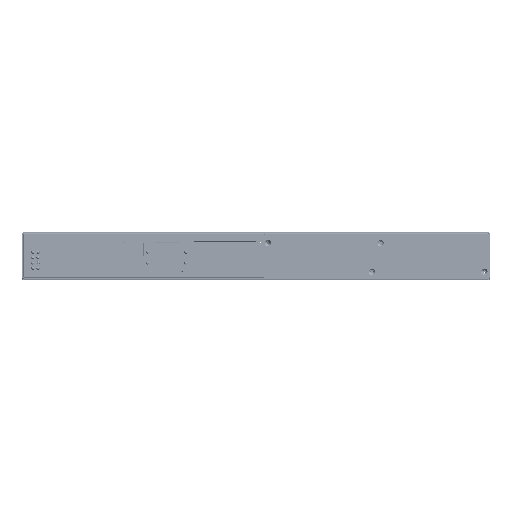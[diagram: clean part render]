
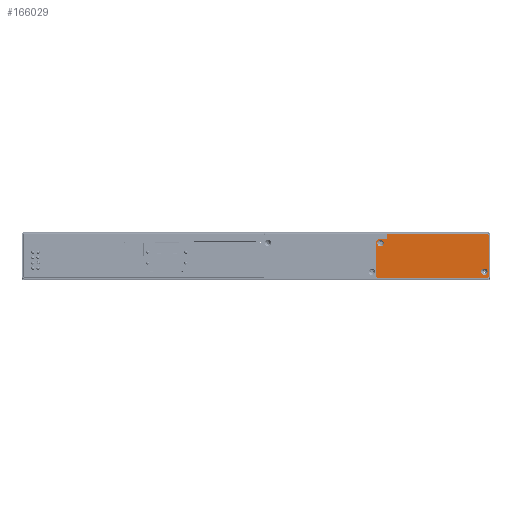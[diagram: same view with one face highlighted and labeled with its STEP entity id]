
A CAD part, top view. The second image highlights one B-rep face of the part: STEP entity #166029.
In plain terms, the highlighted planar face has unit normal (0, 0, 1).
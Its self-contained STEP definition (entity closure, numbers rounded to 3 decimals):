
#165666=DIRECTION('',(0.,1.,0.));
#165667=VECTOR('',#165666,37.8);
#165668=CARTESIAN_POINT('',(218.8,2.,138.8));
#165669=LINE('',#165668,#165667);
#165670=CARTESIAN_POINT('',(216.8,2.,138.8));
#165671=DIRECTION('',(0.,0.,1.));
#165672=DIRECTION('',(0.,-1.,0.));
#165673=AXIS2_PLACEMENT_3D('',#165670,#165671,#165672);
#165675=DIRECTION('',(1.,0.,0.));
#165676=VECTOR('',#165675,101.6);
#165677=CARTESIAN_POINT('',(115.2,0.,138.8));
#165678=LINE('',#165677,#165676);
#165679=CARTESIAN_POINT('',(115.2,2.,138.8));
#165680=DIRECTION('',(0.,0.,1.));
#165681=DIRECTION('',(-1.,0.,0.));
#165682=AXIS2_PLACEMENT_3D('',#165679,#165680,#165681);
#165684=DIRECTION('',(0.,-1.,0.));
#165685=VECTOR('',#165684,32.3);
#165686=CARTESIAN_POINT('',(113.2,34.3,138.8));
#165687=LINE('',#165686,#165685);
#165688=CARTESIAN_POINT('',(115.2,34.3,138.8));
#165689=DIRECTION('',(0.,0.,1.));
#165690=DIRECTION('',(0.,1.,0.));
#165691=AXIS2_PLACEMENT_3D('',#165688,#165689,#165690);
#165693=DIRECTION('',(-1.,0.,0.));
#165694=VECTOR('',#165693,8.);
#165695=CARTESIAN_POINT('',(123.2,36.3,138.8));
#165696=LINE('',#165695,#165694);
#165697=DIRECTION('',(0.,-1.,0.));
#165698=VECTOR('',#165697,3.5);
#165699=CARTESIAN_POINT('',(123.2,39.8,138.8));
#165700=LINE('',#165699,#165698);
#165701=CARTESIAN_POINT('',(125.2,39.8,138.8));
#165702=DIRECTION('',(0.,0.,1.));
#165703=DIRECTION('',(0.,1.,0.));
#165704=AXIS2_PLACEMENT_3D('',#165701,#165702,#165703);
#165706=DIRECTION('',(-1.,0.,0.));
#165707=VECTOR('',#165706,91.6);
#165708=CARTESIAN_POINT('',(216.8,41.8,138.8));
#165709=LINE('',#165708,#165707);
#165710=CARTESIAN_POINT('',(216.8,39.8,138.8));
#165711=DIRECTION('',(0.,0.,1.));
#165712=DIRECTION('',(1.,0.,0.));
#165713=AXIS2_PLACEMENT_3D('',#165710,#165711,#165712);
#165715=CARTESIAN_POINT('',(214.8,6.,138.8));
#165716=DIRECTION('',(0.,0.,-1.));
#165717=DIRECTION('',(1.,0.,0.));
#165718=AXIS2_PLACEMENT_3D('',#165715,#165716,#165717);
#165720=CARTESIAN_POINT('',(214.8,6.,138.8));
#165721=DIRECTION('',(0.,0.,-1.));
#165722=DIRECTION('',(0.,1.,0.));
#165723=AXIS2_PLACEMENT_3D('',#165720,#165721,#165722);
#165725=CARTESIAN_POINT('',(214.8,6.,138.8));
#165726=DIRECTION('',(0.,0.,-1.));
#165727=DIRECTION('',(-1.,0.,0.));
#165728=AXIS2_PLACEMENT_3D('',#165725,#165726,#165727);
#165730=CARTESIAN_POINT('',(214.8,6.,138.8));
#165731=DIRECTION('',(0.,0.,-1.));
#165732=DIRECTION('',(0.,-1.,0.));
#165733=AXIS2_PLACEMENT_3D('',#165730,#165731,#165732);
#165735=CARTESIAN_POINT('',(117.2,32.8,138.8));
#165736=DIRECTION('',(0.,0.,-1.));
#165737=DIRECTION('',(1.,0.,0.));
#165738=AXIS2_PLACEMENT_3D('',#165735,#165736,#165737);
#165740=CARTESIAN_POINT('',(117.2,32.8,138.8));
#165741=DIRECTION('',(0.,0.,-1.));
#165742=DIRECTION('',(0.,1.,0.));
#165743=AXIS2_PLACEMENT_3D('',#165740,#165741,#165742);
#165745=CARTESIAN_POINT('',(117.2,32.8,138.8));
#165746=DIRECTION('',(0.,0.,-1.));
#165747=DIRECTION('',(-1.,0.,0.));
#165748=AXIS2_PLACEMENT_3D('',#165745,#165746,#165747);
#165750=CARTESIAN_POINT('',(117.2,32.8,138.8));
#165751=DIRECTION('',(0.,0.,-1.));
#165752=DIRECTION('',(0.,-1.,0.));
#165753=AXIS2_PLACEMENT_3D('',#165750,#165751,#165752);
#165904=CARTESIAN_POINT('',(218.8,2.,138.8));
#165905=CARTESIAN_POINT('',(218.8,39.8,138.8));
#165906=VERTEX_POINT('',#165904);
#165907=VERTEX_POINT('',#165905);
#165908=CARTESIAN_POINT('',(216.8,0.,138.8));
#165910=VERTEX_POINT('',#165908);
#165912=CARTESIAN_POINT('',(214.8,3.,138.8));
#165913=CARTESIAN_POINT('',(211.8,6.,138.8));
#165914=VERTEX_POINT('',#165912);
#165915=VERTEX_POINT('',#165913);
#165916=CARTESIAN_POINT('',(217.8,6.,138.8));
#165917=VERTEX_POINT('',#165916);
#165918=CARTESIAN_POINT('',(216.8,41.8,138.8));
#165919=VERTEX_POINT('',#165918);
#165924=CARTESIAN_POINT('',(117.2,29.8,138.8));
#165925=CARTESIAN_POINT('',(114.2,32.8,138.8));
#165926=VERTEX_POINT('',#165924);
#165927=VERTEX_POINT('',#165925);
#165928=CARTESIAN_POINT('',(120.2,32.8,138.8));
#165929=VERTEX_POINT('',#165928);
#165930=CARTESIAN_POINT('',(214.8,9.,138.8));
#165931=VERTEX_POINT('',#165930);
#165932=CARTESIAN_POINT('',(125.2,41.8,138.8));
#165933=VERTEX_POINT('',#165932);
#165934=CARTESIAN_POINT('',(115.2,0.,138.8));
#165935=VERTEX_POINT('',#165934);
#165938=CARTESIAN_POINT('',(117.2,35.8,138.8));
#165939=VERTEX_POINT('',#165938);
#165944=CARTESIAN_POINT('',(123.2,39.8,138.8));
#165945=VERTEX_POINT('',#165944);
#165948=CARTESIAN_POINT('',(113.2,2.,138.8));
#165949=VERTEX_POINT('',#165948);
#165956=CARTESIAN_POINT('',(123.2,36.3,138.8));
#165957=VERTEX_POINT('',#165956);
#165960=CARTESIAN_POINT('',(113.2,34.3,138.8));
#165961=VERTEX_POINT('',#165960);
#165968=CARTESIAN_POINT('',(115.2,36.3,138.8));
#165969=VERTEX_POINT('',#165968);
#165980=CARTESIAN_POINT('',(166.,20.9,138.8));
#165981=DIRECTION('',(0.,0.,1.));
#165982=DIRECTION('',(1.,0.,0.));
#165983=AXIS2_PLACEMENT_3D('',#165980,#165981,#165982);
#165984=PLANE('',#165983);
#165986=ORIENTED_EDGE('',*,*,#165985,.F.);
#165988=ORIENTED_EDGE('',*,*,#165987,.F.);
#165990=ORIENTED_EDGE('',*,*,#165989,.F.);
#165992=ORIENTED_EDGE('',*,*,#165991,.F.);
#165994=ORIENTED_EDGE('',*,*,#165993,.F.);
#165996=ORIENTED_EDGE('',*,*,#165995,.F.);
#165998=ORIENTED_EDGE('',*,*,#165997,.F.);
#166000=ORIENTED_EDGE('',*,*,#165999,.F.);
#166002=ORIENTED_EDGE('',*,*,#166001,.F.);
#166004=ORIENTED_EDGE('',*,*,#166003,.F.);
#166006=ORIENTED_EDGE('',*,*,#166005,.F.);
#166007=EDGE_LOOP('',(#165986,#165988,#165990,#165992,#165994,#165996,#165998,
#166000,#166002,#166004,#166006));
#166008=FACE_OUTER_BOUND('',#166007,.F.);
#166010=ORIENTED_EDGE('',*,*,#166009,.F.);
#166012=ORIENTED_EDGE('',*,*,#166011,.F.);
#166014=ORIENTED_EDGE('',*,*,#166013,.F.);
#166016=ORIENTED_EDGE('',*,*,#166015,.F.);
#166017=EDGE_LOOP('',(#166010,#166012,#166014,#166016));
#166018=FACE_BOUND('',#166017,.F.);
#166020=ORIENTED_EDGE('',*,*,#166019,.F.);
#166022=ORIENTED_EDGE('',*,*,#166021,.F.);
#166024=ORIENTED_EDGE('',*,*,#166023,.F.);
#166026=ORIENTED_EDGE('',*,*,#166025,.F.);
#166027=EDGE_LOOP('',(#166020,#166022,#166024,#166026));
#166028=FACE_BOUND('',#166027,.F.);
#166029=ADVANCED_FACE('',(#166008,#166018,#166028),#165984,.T.);
#165674=CIRCLE('',#165673,2.);
#165683=CIRCLE('',#165682,2.);
#165692=CIRCLE('',#165691,2.);
#165705=CIRCLE('',#165704,2.);
#165714=CIRCLE('',#165713,2.);
#165719=CIRCLE('',#165718,3.);
#165724=CIRCLE('',#165723,3.);
#165729=CIRCLE('',#165728,3.);
#165734=CIRCLE('',#165733,3.);
#165739=CIRCLE('',#165738,3.);
#165744=CIRCLE('',#165743,3.);
#165749=CIRCLE('',#165748,3.);
#165754=CIRCLE('',#165753,3.);
#165985=EDGE_CURVE('',#165906,#165907,#165669,.T.);
#165987=EDGE_CURVE('',#165910,#165906,#165674,.T.);
#165989=EDGE_CURVE('',#165935,#165910,#165678,.T.);
#165991=EDGE_CURVE('',#165949,#165935,#165683,.T.);
#165993=EDGE_CURVE('',#165961,#165949,#165687,.T.);
#165995=EDGE_CURVE('',#165969,#165961,#165692,.T.);
#165997=EDGE_CURVE('',#165957,#165969,#165696,.T.);
#165999=EDGE_CURVE('',#165945,#165957,#165700,.T.);
#166001=EDGE_CURVE('',#165933,#165945,#165705,.T.);
#166003=EDGE_CURVE('',#165919,#165933,#165709,.T.);
#166005=EDGE_CURVE('',#165907,#165919,#165714,.T.);
#166009=EDGE_CURVE('',#165917,#165914,#165719,.T.);
#166011=EDGE_CURVE('',#165931,#165917,#165724,.T.);
#166013=EDGE_CURVE('',#165915,#165931,#165729,.T.);
#166015=EDGE_CURVE('',#165914,#165915,#165734,.T.);
#166019=EDGE_CURVE('',#165929,#165926,#165739,.T.);
#166021=EDGE_CURVE('',#165939,#165929,#165744,.T.);
#166023=EDGE_CURVE('',#165927,#165939,#165749,.T.);
#166025=EDGE_CURVE('',#165926,#165927,#165754,.T.);
